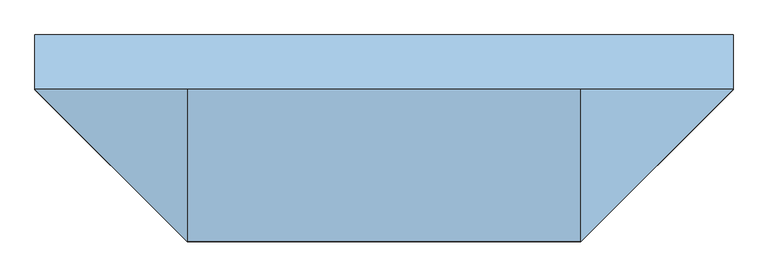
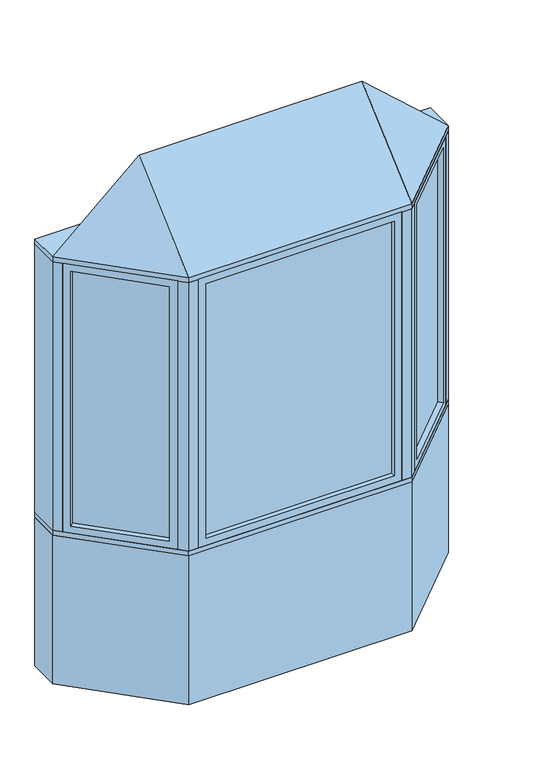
"""IFC4 building model written with IfcOpenShell, lengths in millimetres: window geometry, Pollard_Windows_Tudor Casement Bows and Bays : AML-BAY 45 AFR0614-08-500."""

from ifc_helpers import new_model, si_unit, frame, origin, origin_with_axes, place, context, project, spatial, polyline, outline, extrude, faceted_brep, source, transform, mapped, element, save


def window_20f38846(model_context):
    return source(origin(), model_context, "Body", "SolidModel", [
        extrude(outline(polyline([(910.5964271, -104.763169), (584.824814, -430.5347822), (581.2327115, -426.9426797), (907.0043247, -101.1710666), (910.5964271, -104.763169)])), frame((0.0, 0.0, 823.1628), z_axis=(0.0, 0.0, 1.0), x_axis=(1.0, 0.0, 0.0)), (0.0, 0.0, 1.0), 1353.6704),
        faceted_brep([(901.616171, -113.7434252, 835.8628), (919.5766833, -131.7039374, 835.8628), (919.5766833, -131.7039374, 2164.1332), (901.616171, -113.7434252, 2164.1332), (907.0043247, -101.1710666, 823.1628), (910.5964271, -104.763169, 823.1628), (910.5964271, -104.763169, 2176.8332), (907.0043247, -101.1710666, 2176.8332), (880.0635563, -92.1908105, 835.8628), (898.0240686, -110.1513227, 835.8628), (898.0240686, -110.1513227, 2164.1332), (880.0635563, -92.1908105, 2164.1332), (944.9369265, -106.3436941, 799.998), (905.4237996, -66.8305672, 799.998), (905.4237996, -66.8305672, 2199.998), (944.9369265, -106.3436941, 2199.998), (611.7655823, -439.5150383, 2164.1332), (593.8050701, -421.5545261, 2164.1332), (584.824814, -430.5347822, 2176.8332), (581.2327115, -426.9426797, 2176.8332), (590.2129677, -417.9624236, 2164.1332), (572.2524554, -400.0019114, 2164.1332), (546.8922121, -425.3621547, 2199.998), (586.4053391, -464.8752816, 2199.998), (611.7655823, -439.5150383, 835.8628), (593.8050701, -421.5545261, 835.8628), (584.824814, -430.5347822, 823.1628), (581.2327115, -426.9426797, 823.1628), (590.2129677, -417.9624236, 835.8628), (572.2524554, -400.0019114, 835.8628), (546.8922121, -425.3621547, 799.998), (586.4053391, -464.8752816, 799.998)], [[[0, 1, 2, 3]], [[4, 5, 6, 7]], [[8, 9, 10, 11]], [[12, 13, 14, 15]], [[3, 2, 16, 17]], [[7, 6, 18, 19]], [[11, 10, 20, 21]], [[15, 14, 22, 23]], [[17, 16, 24, 25]], [[19, 18, 26, 27]], [[21, 20, 28, 29]], [[23, 22, 30, 31]], [[25, 24, 1, 0]], [[5, 26, 18, 6], [3, 17, 25, 0]], [[27, 26, 5, 4]], [[7, 19, 27, 4], [9, 28, 20, 10]], [[29, 28, 9, 8]], [[13, 30, 22, 14], [11, 21, 29, 8]], [[31, 30, 13, 12]], [[15, 23, 31, 12], [1, 24, 16, 2]]]),
        extrude(outline(polyline([(-584.824814, -430.5347822), (-910.5964271, -104.763169), (-907.0043247, -101.1710666), (-581.2327115, -426.9426797), (-584.824814, -430.5347822)])), frame((0.0, 0.0, 823.1628), z_axis=(0.0, 0.0, 1.0), x_axis=(1.0, 0.0, 0.0)), (0.0, 0.0, 1.0), 1353.6704),
        faceted_brep([(-590.2129677, -417.9624236, 2164.1332), (-572.2524554, -400.0019114, 2164.1332), (-572.2524554, -400.0019114, 835.8628), (-590.2129677, -417.9624236, 835.8628), (-584.824814, -430.5347822, 2176.8332), (-581.2327115, -426.9426797, 2176.8332), (-581.2327115, -426.9426797, 823.1628), (-584.824814, -430.5347822, 823.1628), (-611.7655823, -439.5150383, 2164.1332), (-593.8050701, -421.5545261, 2164.1332), (-593.8050701, -421.5545261, 835.8628), (-611.7655823, -439.5150383, 835.8628), (-546.8922121, -425.3621547, 2199.998), (-586.4053391, -464.8752816, 2199.998), (-586.4053391, -464.8752816, 799.998), (-546.8922121, -425.3621547, 799.998), (-880.0635563, -92.1908105, 835.8628), (-898.0240686, -110.1513227, 835.8628), (-907.0043247, -101.1710666, 823.1628), (-910.5964271, -104.763169, 823.1628), (-901.616171, -113.7434252, 835.8628), (-919.5766833, -131.7039374, 835.8628), (-944.9369265, -106.3436941, 799.998), (-905.4237996, -66.8305672, 799.998), (-880.0635563, -92.1908105, 2164.1332), (-898.0240686, -110.1513227, 2164.1332), (-907.0043247, -101.1710666, 2176.8332), (-910.5964271, -104.763169, 2176.8332), (-901.616171, -113.7434252, 2164.1332), (-919.5766833, -131.7039374, 2164.1332), (-944.9369265, -106.3436941, 2199.998), (-905.4237996, -66.8305672, 2199.998)], [[[0, 1, 2, 3]], [[4, 5, 6, 7]], [[8, 9, 10, 11]], [[12, 13, 14, 15]], [[3, 2, 16, 17]], [[7, 6, 18, 19]], [[11, 10, 20, 21]], [[15, 14, 22, 23]], [[17, 16, 24, 25]], [[19, 18, 26, 27]], [[21, 20, 28, 29]], [[23, 22, 30, 31]], [[15, 23, 31, 12], [1, 24, 16, 2]], [[25, 24, 1, 0]], [[5, 26, 18, 6], [3, 17, 25, 0]], [[27, 26, 5, 4]], [[7, 19, 27, 4], [9, 28, 20, 10]], [[29, 28, 9, 8]], [[13, 30, 22, 14], [11, 21, 29, 8]], [[31, 30, 13, 12]]]),
        extrude(outline(polyline([(477.8852, -474.8306207), (-477.8852, -474.8306207), (-477.8852, -469.7506207), (477.8852, -469.7506207), (477.8852, -474.8306207)])), frame((0.0, 0.0, 823.1628), z_axis=(0.0, 0.0, 1.0), x_axis=(1.0, 0.0, 0.0)), (0.0, 0.0, 1.0), 1353.6704),
        faceted_brep([(465.1852, -474.8306207, 835.8628), (465.1852, -500.2306207, 835.8628), (465.1852, -500.2306207, 2164.1332), (465.1852, -474.8306207, 2164.1332), (477.8852, -469.7506207, 823.1628), (477.8852, -474.8306207, 823.1628), (477.8852, -474.8306207, 2176.8332), (477.8852, -469.7506207, 2176.8332), (465.1852, -444.3506207, 835.8628), (465.1852, -469.7506207, 835.8628), (465.1852, -469.7506207, 2164.1332), (465.1852, -444.3506207, 2164.1332), (501.05, -500.2306207, 799.998), (501.05, -444.3506207, 799.998), (501.05, -444.3506207, 2199.998), (501.05, -500.2306207, 2199.998), (-465.1852, -500.2306207, 2164.1332), (-465.1852, -474.8306207, 2164.1332), (-477.8852, -474.8306207, 2176.8332), (-477.8852, -469.7506207, 2176.8332), (-465.1852, -469.7506207, 2164.1332), (-465.1852, -444.3506207, 2164.1332), (-501.05, -444.3506207, 2199.998), (-501.05, -500.2306207, 2199.998), (-465.1852, -500.2306207, 835.8628), (-465.1852, -474.8306207, 835.8628), (-477.8852, -474.8306207, 823.1628), (-477.8852, -469.7506207, 823.1628), (-465.1852, -469.7506207, 835.8628), (-465.1852, -444.3506207, 835.8628), (-501.05, -444.3506207, 799.998), (-501.05, -500.2306207, 799.998)], [[[0, 1, 2, 3]], [[4, 5, 6, 7]], [[8, 9, 10, 11]], [[12, 13, 14, 15]], [[3, 2, 16, 17]], [[7, 6, 18, 19]], [[11, 10, 20, 21]], [[15, 14, 22, 23]], [[17, 16, 24, 25]], [[19, 18, 26, 27]], [[21, 20, 28, 29]], [[23, 22, 30, 31]], [[15, 23, 31, 12], [1, 24, 16, 2]], [[25, 24, 1, 0]], [[5, 26, 18, 6], [3, 17, 25, 0]], [[27, 26, 5, 4]], [[7, 19, 27, 4], [9, 28, 20, 10]], [[29, 28, 9, 8]], [[13, 30, 22, 14], [11, 21, 29, 8]], [[31, 30, 13, 12]]]),
        faceted_brep([(976.5, -74.7806207, 2225.398), (551.05, -500.2306207, 2225.398), (-551.05, -500.2306207, 2225.398), (-976.5, -74.7806207, 2225.398), (-551.05, -74.7806207, 2606.398), (551.05, -74.7806207, 2606.398)], [[[0, 1, 2, 3]], [[3, 2, 4]], [[2, 1, 5, 4]], [[1, 0, 5]], [[0, 3, 4, 5]]]),
        extrude(outline(polyline([(-976.5, 77.6193793), (976.5, 77.6193793), (976.5, -74.7806207), (551.05, -500.2306207), (-551.05, -500.2306207), (-976.5, -74.7806207), (-976.5, 77.6193793)])), frame((0.0, 0.0, 2199.998), z_axis=(0.0, 0.0, 1.0), x_axis=(1.0, 0.0, 0.0)), (0.0, 0.0, 1.0), 25.4),
        extrude(outline(polyline([(-976.5, -74.7806207), (-976.5, 77.6193793), (-913.3738531, 77.6193793), (-913.3738531, -74.7806207), (-944.9369265, -106.3436941), (-976.5, -74.7806207)])), frame((0.0, 0.0, 799.998), z_axis=(0.0, 0.0, 1.0), x_axis=(1.0, 0.0, 0.0)), (0.0, 0.0, 1.0), 1400.0),
        extrude(outline(polyline([(976.5, 77.6193793), (976.5, -74.7806207), (944.9369265, -106.3436941), (913.3738531, -74.7806207), (913.3738531, 77.6193793), (976.5, 77.6193793)])), frame((0.0, 0.0, 799.998), z_axis=(0.0, 0.0, 1.0), x_axis=(1.0, 0.0, 0.0)), (0.0, 0.0, 1.0), 1400.0),
        extrude(outline(polyline([(551.05, -500.2306207), (501.05, -500.2306207), (501.05, -450.2306207), (530.3393219, -450.2306207), (551.05, -429.5199425), (586.4053391, -464.8752816), (551.05, -500.2306207)])), frame((0.0, 0.0, 799.998), z_axis=(0.0, 0.0, 1.0), x_axis=(1.0, 0.0, 0.0)), (0.0, 0.0, 1.0), 1400.0),
        extrude(outline(polyline([(-551.05, -500.2306207), (-586.4053391, -464.8752816), (-551.05, -429.5199425), (-530.3393219, -450.2306207), (-501.05, -450.2306207), (-501.05, -500.2306207), (-551.05, -500.2306207)])), frame((0.0, 0.0, 799.998), z_axis=(0.0, 0.0, 1.0), x_axis=(1.0, 0.0, 0.0)), (0.0, 0.0, 1.0), 1400.0),
        extrude(outline(polyline([(-551.05, -500.2306207), (-976.5, -74.7806207), (-976.5, 77.6193793), (-913.3738531, 77.6193793), (-487.9238531, -347.8306207), (487.9238531, -347.8306207), (913.3738531, 77.6193793), (976.5, 77.6193793), (976.5, -74.7806207), (551.05, -500.2306207), (-551.05, -500.2306207)])), frame((0.0, 0.0, 774.598), z_axis=(0.0, 0.0, 1.0), x_axis=(1.0, 0.0, 0.0)), (0.0, 0.0, 1.0), 25.4),
        extrude(outline(polyline([(-976.5, -74.7806207), (-976.5, 77.6193793), (-913.3738531, 77.6193793), (-487.9238531, -347.8306207), (487.9238531, -347.8306207), (913.3738531, 77.6193793), (976.5, 77.6193793), (976.5, -74.7806207), (551.05, -500.2306207), (-551.05, -500.2306207), (-976.5, -74.7806207)])), origin_with_axes(), (0.0, 0.0, 1.0), 774.598),
    ])


if __name__ == "__main__":
    model = new_model("IFC4")
    model_context = context("Model", 3, world=origin())
    ifc_project = project(units=[si_unit("LENGTHUNIT", "METRE", prefix="MILLI")], contexts=[model_context])
    site = spatial("IfcSite", under=ifc_project)
    building = spatial("IfcBuilding", under=site)
    placement = place(None, origin())
    window_shape = window_20f38846(model_context)
    element("IfcWindow", 1, ObjectType="Pollard_Windows_Tudor Casement Bows and Bays : AML-BAY 45 AFR0614-08-500", at=placement, inside=building, context=model_context, shape_type="MappedRepresentation", body=[
        mapped(window_shape, transform((0.0, 0.0, 0.0), x_axis=(1.0, 0.0, 0.0), y_axis=(0.0, 1.0, 0.0), z_axis=(0.0, 0.0, 1.0))),
    ])
    save(model, "model.ifc")
